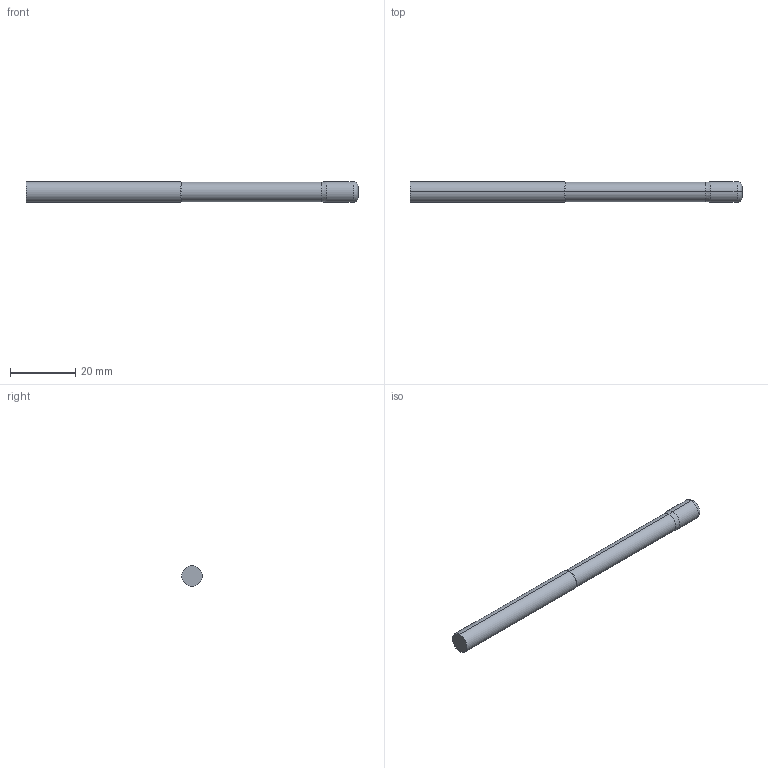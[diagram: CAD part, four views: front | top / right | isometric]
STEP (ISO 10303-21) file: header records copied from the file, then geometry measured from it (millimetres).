
FILE_DESCRIPTION (( 'STEP AP214' ), '1' );
FILE_NAME ('SSIRNL50250-060.STEP', '2025-05-28T13:15:05', ( '' ), ( '' ), 'SwSTEP 2.0', 'SolidWorks 2023', '' );
FILE_SCHEMA (( 'AUTOMOTIVE_DESIGN' ));
Length unit declared in the file: inch
Products named in the file (3): SSI5 Imperial LOC ONLY_SSIRNL50250-060; SSIRNL50250-060; SSI5 Imperial SHANK ONLY_SSIRNL50250-060
Assembly tree (2 placements, depth 2):
  SSIRNL50250-060
    SSI5 Imperial LOC ONLY_SSIRNL50250-060
    SSI5 Imperial SHANK ONLY_SSIRNL50250-060
Bounding box: 101.6 x 6.35 x 6.35 mm (x, y, z)
Volume: 3047.1 mm3; surface area: 2088.2 mm2
Topology: 2 solids, 2 shells, 16 faces, 28 edges, 16 vertices
Faces by surface type: cylinder 6, plane 4, cone 4, torus 2
Entity records: 562 total; most frequent: DIRECTION 88, CARTESIAN_POINT 65, ORIENTED_EDGE 56, AXIS2_PLACEMENT_3D 39, EDGE_CURVE 28, CIRCLE 18, ADVANCED_FACE 16, EDGE_LOOP 16
